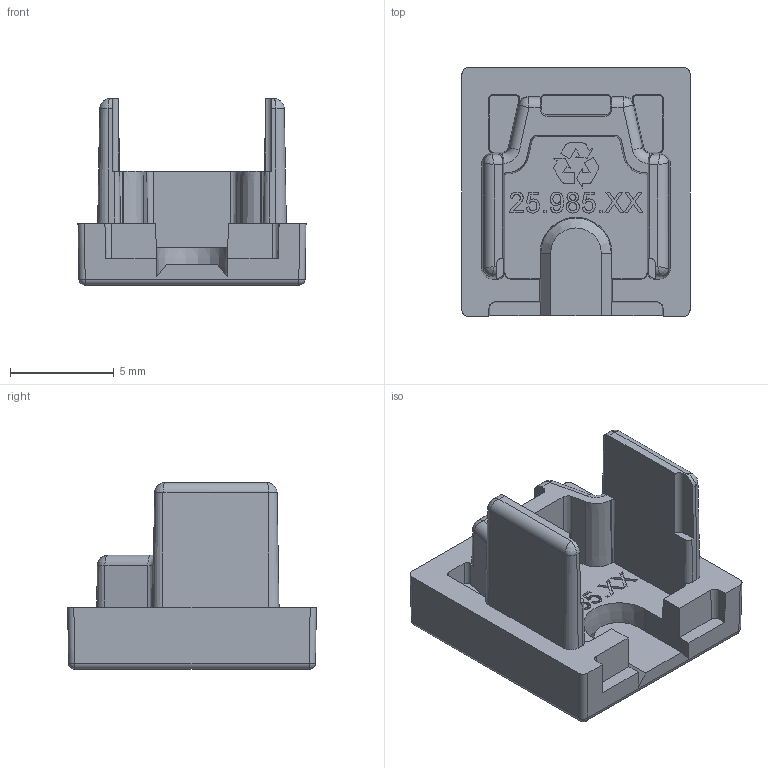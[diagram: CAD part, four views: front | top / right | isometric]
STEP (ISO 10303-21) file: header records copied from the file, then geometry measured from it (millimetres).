
FILE_DESCRIPTION (( 'STEP AP203' ), '1' );
FILE_NAME ('Endkappen_ChannelLine_i3_24.STEP', '2024-11-29T06:37:47', ( '' ), ( '' ), 'SwSTEP 2.0', 'SolidWorks 2023', '' );
FILE_SCHEMA (( 'CONFIG_CONTROL_DESIGN' ));
Length unit declared in the file: millimetre
Products named in the file (1): Endkappen_ChannelLine_i3_24
Bounding box: 11 x 12 x 9 mm (x, y, z)
Volume: 395.6 mm3; surface area: 667.2 mm2
Topology: 1 solids, 1 shells, 292 faces, 793 edges, 512 vertices
Faces by surface type: plane 153, bspline 70, cone 34, cylinder 29, sphere 4, torus 2
Entity records: 13537 total; most frequent: CARTESIAN_POINT 6598, ORIENTED_EDGE 1574, DIRECTION 1164, EDGE_CURVE 787, VECTOR 528, LINE 528, VERTEX_POINT 512, AXIS2_PLACEMENT_3D 318
